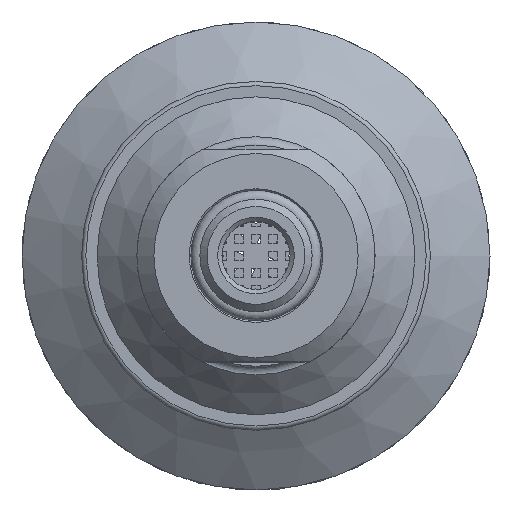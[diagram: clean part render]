
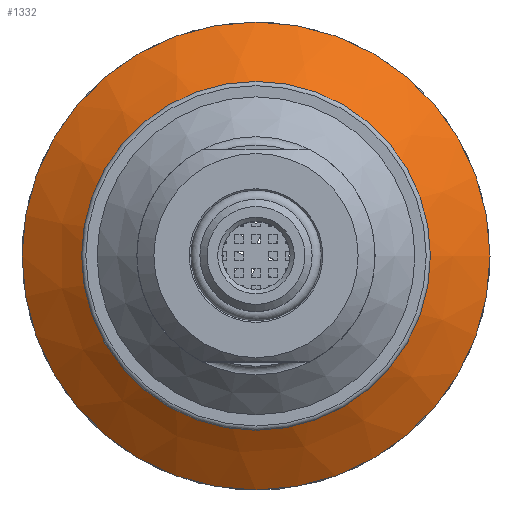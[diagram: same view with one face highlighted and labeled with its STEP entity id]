
A CAD part, top view. The second image highlights one B-rep face of the part: STEP entity #1332.
In plain terms, the highlighted conical face has half-angle 54.513 degrees and reference radius 27.5 mm.
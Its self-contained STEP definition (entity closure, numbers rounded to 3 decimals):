
#1332 = ADVANCED_FACE( '', ( #2875, #2876 ), #2877, .T. );
#2875 = FACE_BOUND( '', #4360, .T. );
#2876 = FACE_OUTER_BOUND( '', #4361, .T. );
#2877 = CONICAL_SURFACE( '', #4362, 27.5, 0.951 );
#4360 = EDGE_LOOP( '', ( #6138 ) );
#4361 = EDGE_LOOP( '', ( #6139 ) );
#4362 = AXIS2_PLACEMENT_3D( '', #6140, #6141, #6142 );
#6138 = ORIENTED_EDGE( '', *, *, #11726, .F. );
#6139 = ORIENTED_EDGE( '', *, *, #11727, .T. );
#6140 = CARTESIAN_POINT( '', ( 0., 0., -5.218 ) );
#6141 = DIRECTION( '', ( 0., 0., -1. ) );
#6142 = DIRECTION( '', ( -1., 0., 0. ) );
#11726 = EDGE_CURVE( '', #13391, #13391, #13392, .T. );
#11727 = EDGE_CURVE( '', #13393, #13393, #13394, .T. );
#13391 = VERTEX_POINT( '', #15705 );
#13392 = CIRCLE( '', #15706, 18.81 );
#13393 = VERTEX_POINT( '', #15707 );
#13394 = CIRCLE( '', #15708, 27.5 );
#15705 = CARTESIAN_POINT( '', ( 18.81, 0., 0.978 ) );
#15706 = AXIS2_PLACEMENT_3D( '', #19269, #19270, #19271 );
#15707 = CARTESIAN_POINT( '', ( 27.5, 0., -5.218 ) );
#15708 = AXIS2_PLACEMENT_3D( '', #19272, #19273, #19274 );
#19269 = CARTESIAN_POINT( '', ( 0., 0., 0.978 ) );
#19270 = DIRECTION( '', ( 0., 0., 1. ) );
#19271 = DIRECTION( '', ( 1., 0., 0. ) );
#19272 = CARTESIAN_POINT( '', ( 0., 0., -5.218 ) );
#19273 = DIRECTION( '', ( 0., 0., 1. ) );
#19274 = DIRECTION( '', ( 1., 0., 0. ) );
